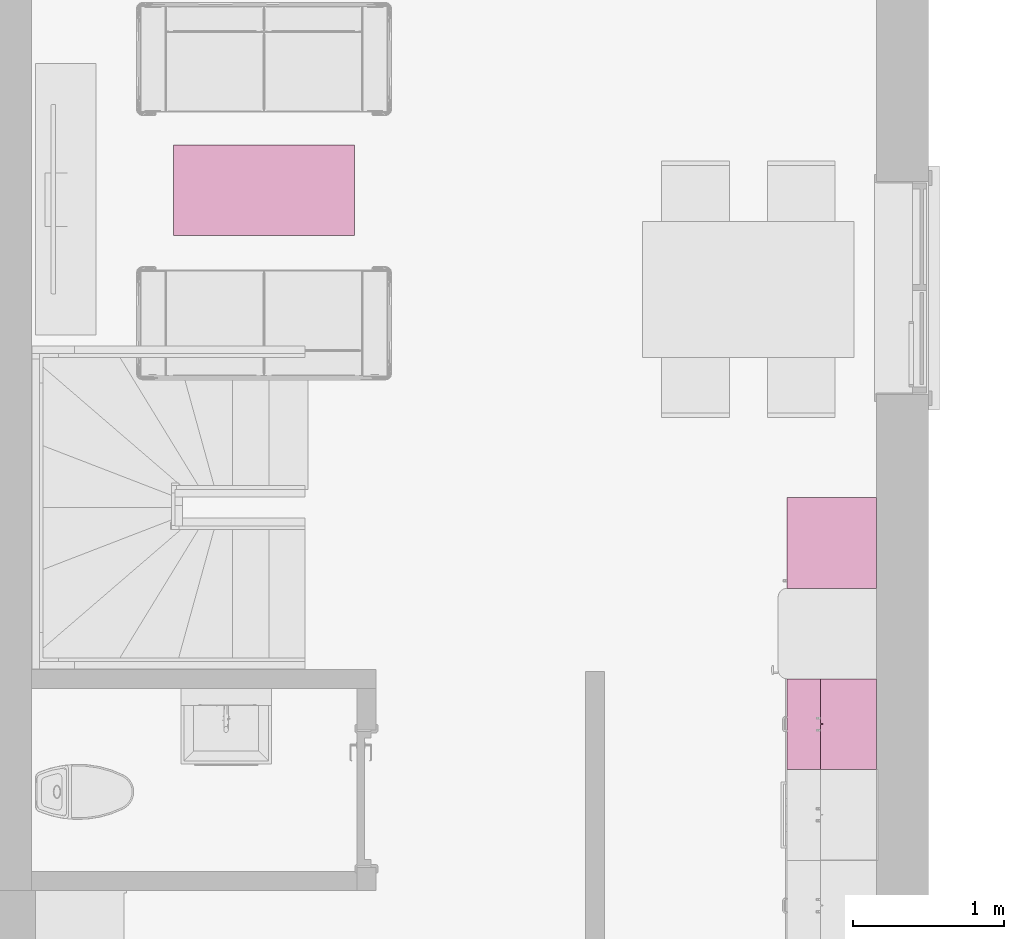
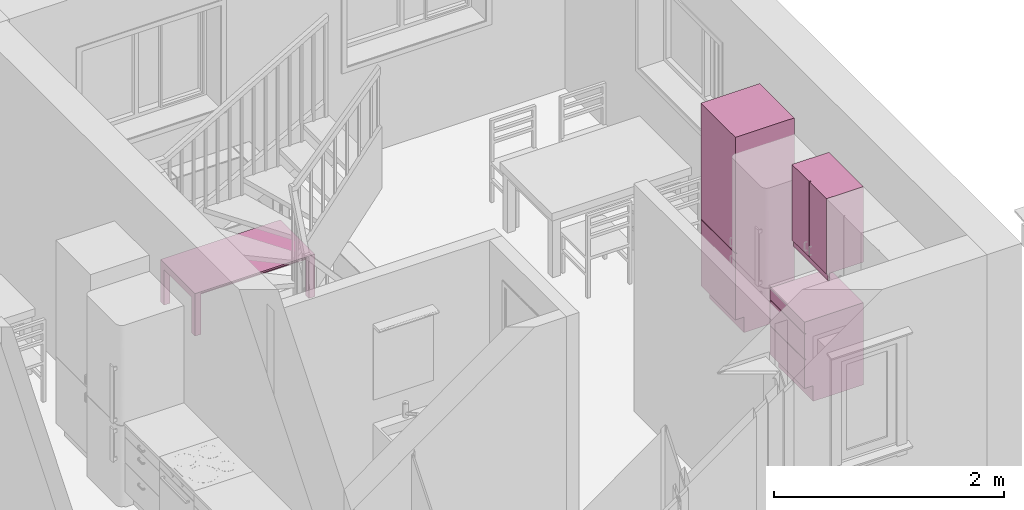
# One storey, part 44 of 65: 4 furnishings.
"""IFC2X3 building model written with IfcOpenShell, lengths in millimetres."""

from ifc_helpers import new_model, entity, si_unit, converted_unit, direction, frame, frame_2d, origin, origin_2d_with_axis, place, context, subcontext, project, spatial, polyline, rectangle, outline, extrude, faceted_brep, source, transform, mapped, material, material_list, type_object, type_shapes, element, save


model = new_model("IFC2X3")

# Units and contexts
model_context = context("Model", 3, precision=0.01, world=origin(), true_north=direction((0.0, 1.0)))
body_context = subcontext(model_context, "Body", "Model", "MODEL_VIEW")
ifc_project = project(units=[si_unit("LENGTHUNIT", "METRE", prefix="MILLI"), si_unit("AREAUNIT", "SQUARE_METRE"), si_unit("VOLUMEUNIT", "CUBIC_METRE"), converted_unit("PLANEANGLEUNIT", "DEGREE", entity("IfcPlaneAngleMeasure", 0.017453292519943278), si_unit("PLANEANGLEUNIT", "RADIAN"), dimensions=[0, 0, 0, 0, 0, 0, 0])], contexts=[model_context])

# Site, building, storey, space
site_placement = place(None, origin())
site = spatial("IfcSite", under=ifc_project, at=site_placement, Name="Default", CompositionType="ELEMENT")
building_placement = place(site_placement, origin())
building = spatial("IfcBuilding", under=site, at=building_placement, CompositionType="ELEMENT")
storey_placement = place(building_placement, origin())
storey = spatial("IfcBuildingStorey", under=building, at=storey_placement, Name="Et. 1", CompositionType="ELEMENT", Elevation=0.0)
space_placement = place(storey_placement, origin())
space = spatial("IfcSpace", under=storey, at=space_placement, Name="113", CompositionType="ELEMENT", InteriorOrExteriorSpace="INTERNAL")

# Furnishings
ifc_material_1 = material(Name="Focus - Møbler - Kaffebord - Ramme")
ifc_material_2 = material(Name="Focus - Møbler - Kaffebord - Glass")
ifc_material_list_1 = material_list([ifc_material_1, ifc_material_2])
furniture_type_1 = type_object("IfcFurnitureType", Name="Stuebord (1):1200x600x450", AssemblyPlace="NOTDEFINED", material=ifc_material_list_1)
shared_shape_1 = source(origin(), body_context, "Body", "SweptSolid", [
    extrude(outline(polyline([(-600.0, -300.0), (600.0, -300.0), (600.0, 300.0), (-600.0, 300.0), (-600.0, -300.0)]), holes=[polyline([(-540.0, -240.0), (-540.0, 240.0), (540.0, 240.0), (540.0, -240.0), (-540.0, -240.0)])]), frame((18.26576667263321, 95.21107780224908, 435.0), z_axis=(0.0, 0.0, 1.0), x_axis=(-1.0, 0.0, 0.0)), (0.0, 0.0, 1.0), 14.999999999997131),
    extrude(rectangle(XDim=1079.9999999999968, YDim=480.0000000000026, at=origin_2d_with_axis()), frame((18.26576667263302, 95.21107780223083, 435.0), z_axis=(0.0, 0.0, 1.0), x_axis=(-1.0, 0.0, 0.0)), (0.0, 0.0, 1.0), 14.999999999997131),
    extrude(outline(polyline([(-202.5000000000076, -300.0), (232.49999999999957, -300.0), (232.5000000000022, 300.0), (-202.49999999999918, 300.0), (-202.5000000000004, 240.0), (172.50000000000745, 240.0), (172.50000000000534, -240.0), (-202.5000000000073, -240.0), (-202.5000000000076, -300.0)])), frame((558.2657666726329, 95.21107780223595, 202.4999999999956), z_axis=(1.0, 0.0, 0.0), x_axis=(0.0, 0.0, 1.0)), (0.0, 0.0, 1.0), 59.999999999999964),
    extrude(outline(polyline([(-202.50000000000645, -300.0), (232.4999999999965, -300.0), (232.50000000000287, 300.0), (-202.49999999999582, 300.0), (-202.49999999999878, 240.0), (172.50000000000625, 240.0), (172.5000000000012, -240.0), (-202.5000000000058, -240.0), (-202.50000000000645, -300.0)])), frame((-581.7342333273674, 95.21107780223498, 202.49999999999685), z_axis=(1.0, 0.0, 0.0), x_axis=(0.0, 0.0, 1.0)), (0.0, 0.0, 1.0), 60.00000000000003),
    extrude(rectangle(XDim=1080.000000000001, YDim=480.00000000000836, at=frame_2d((5.684341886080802e-14, 0.0), x_axis=(1.0, 0.0))), frame((18.265766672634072, 95.21107780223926, 375.0), z_axis=(0.0, 0.0, 1.0), x_axis=(-1.0, 0.0, 0.0)), (0.0, 0.0, 1.0), 14.999999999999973),
])
type_shapes(furniture_type_1, [shared_shape_1])
furnishing_1_placement = place(space_placement, frame((29881.523660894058, 14488.115229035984, 0.0), z_axis=(0.0, 0.0, 1.0), x_axis=(-1.0, 0.0, 0.0)))
element("IfcFurnishingElement", 1, at=furnishing_1_placement, inside=space, type_object=furniture_type_1, material=ifc_material_list_1, Name="Stuebord (1):1200x600x450", context=body_context, shape_type="MappedRepresentation", body=[
    mapped(shared_shape_1, transform((0.0, 0.0, 0.0), scale=1.0)),
])
ifc_material_3 = material(Name="Focus - Kjøkken - Front")
ifc_material_4 = material(Name="Focus - Kjøkken - Skapstamme")
ifc_material_list_2 = material_list([ifc_material_3, ifc_material_4])
furniture_type_2 = type_object("IfcFurnitureType", Name="Focus - Kjøkken - Benkeskap 3 skuffer:600 mm", AssemblyPlace="NOTDEFINED", material=ifc_material_list_2)
shared_shape_2 = source(origin(), body_context, "Body", "SweptSolid", [
    extrude(rectangle(XDim=600.0, YDim=503.99999999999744, at=frame_2d((-2.842170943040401e-14, -2.842170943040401e-14), x_axis=(1.0, 0.0))), frame((-254.58506095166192, 499.8168112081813, 0.0), z_axis=(0.0, 0.0, 1.0), x_axis=(-1.0, 0.0, 0.0)), (0.0, 0.0, 1.0), 165.99999999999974),
    extrude(rectangle(XDim=16.000000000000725, YDim=600.0000000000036, at=frame_2d((0.0, 2.842170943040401e-14), x_axis=(1.0, 0.0))), frame((-254.58506095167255, 169.81681120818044, 747.0), z_axis=(0.0, 0.0, 1.0), x_axis=(0.0, -1.0, 0.0)), (0.0, 0.0, 1.0), 122.99999999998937),
    extrude(rectangle(XDim=16.000000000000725, YDim=600.0, at=frame_2d((0.0, 2.842170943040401e-14), x_axis=(1.0, 0.0))), frame((-254.58506095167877, 169.81681120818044, 166.0), z_axis=(0.0, 0.0, 1.0), x_axis=(0.0, -1.0, 0.0)), (0.0, 0.0, 1.0), 303.0000000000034),
    extrude(rectangle(XDim=16.000000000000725, YDim=599.9999999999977, at=frame_2d((0.0, 2.842170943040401e-14), x_axis=(1.0, 0.0))), frame((-254.58506095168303, 169.81681120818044, 475.0), z_axis=(0.0, 0.0, 1.0), x_axis=(0.0, -1.0, 0.0)), (0.0, 0.0, 1.0), 265.9999999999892),
    extrude(rectangle(XDim=573.9999999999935, YDim=599.9999999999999, at=frame_2d((-90.33333333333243, 2.842170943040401e-14), x_axis=(1.0, 0.0))), frame((-254.5850609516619, 555.1501445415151, 166.0), z_axis=(0.0, 0.0, 1.0), x_axis=(0.0, 1.0, 0.0)), (0.0, 0.0, 1.0), 704.0000000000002),
])
type_shapes(furniture_type_2, [shared_shape_2])
furnishing_2_placement = place(space_placement, frame((33167.192775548, 10601.473658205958, 0.0), z_axis=(0.0, 0.0, 1.0), x_axis=(0.0, -1.0, 0.0)))
element("IfcFurnishingElement", 2, at=furnishing_2_placement, inside=space, type_object=furniture_type_2, material=ifc_material_list_2, Name="Focus - Kjøkken - Benkeskap 3 skuffer:600 mm", context=body_context, shape_type="MappedRepresentation", body=[
    mapped(shared_shape_2, transform((0.0, 0.0, 0.0), scale=1.0)),
])
furniture_type_3 = type_object("IfcFurnitureType", Name="Focus - Kjøkken - Høyskap 2 dører:600 mm", AssemblyPlace="NOTDEFINED", material=ifc_material_list_2)
shared_shape_3 = source(origin(), body_context, "Body", "SweptSolid", [
    extrude(rectangle(XDim=599.9999999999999, YDim=503.9999999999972, at=origin_2d_with_axis()), frame((-254.58506095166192, 499.81681120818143, 0.0), z_axis=(0.0, 0.0, 1.0), x_axis=(-1.0, 0.0, 0.0)), (0.0, 0.0, 1.0), 165.99999999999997),
    extrude(rectangle(XDim=16.000000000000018, YDim=600.0000000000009, at=frame_2d((-1.687538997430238e-14, 0.0), x_axis=(1.0, 0.0))), frame((-254.58506095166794, 169.81681120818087, 873.0), z_axis=(0.0, 0.0, 1.0), x_axis=(0.0, -1.0, 0.0)), (0.0, 0.0, 1.0), 1226.9999999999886),
    extrude(rectangle(XDim=16.000000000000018, YDim=600.0000000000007, at=frame_2d((-1.687538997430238e-14, -2.842170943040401e-14), x_axis=(1.0, 0.0))), frame((-254.585060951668, 169.81681120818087, 166.0), z_axis=(0.0, 0.0, 1.0), x_axis=(0.0, -1.0, 0.0)), (0.0, 0.0, 1.0), 701.0000000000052),
    extrude(rectangle(XDim=573.9999999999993, YDim=599.9999999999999, at=frame_2d((-2.842170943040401e-14, 0.0), x_axis=(1.0, 0.0))), frame((-254.5850609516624, 464.81681120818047, 166.0), z_axis=(0.0, 0.0, 1.0), x_axis=(0.0, 1.0, 0.0)), (0.0, 0.0, 1.0), 1934.0000000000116),
])
type_shapes(furniture_type_3, [shared_shape_3])
furnishing_3_placement = place(space_placement, frame((33167.19277554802, 11801.473658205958, 0.0), z_axis=(0.0, 0.0, 1.0), x_axis=(0.0, -1.0, 0.0)))
element("IfcFurnishingElement", 3, at=furnishing_3_placement, inside=space, type_object=furniture_type_3, material=ifc_material_list_2, Name="Focus - Kjøkken - Høyskap 2 dører:600 mm", context=body_context, shape_type="MappedRepresentation", body=[
    mapped(shared_shape_3, transform((0.0, 0.0, 0.0), scale=1.0)),
])
furniture_type_4 = type_object("IfcFurnitureType", Name="Focus - Kjøkken - Veggskap 2 dør:600x370x400", AssemblyPlace="NOTDEFINED", material=ifc_material_list_2)
shared_shape_4 = source(origin(), body_context, "Body", "Brep", [
    faceted_brep([(-257.58506095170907, 397.8168112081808, 2100.0), (-257.58506095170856, 397.8168112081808, 1300.0), (-554.5850609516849, 397.8168112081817, 1300.0), (-554.5850609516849, 397.8168112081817, 2100.0), (-257.5850609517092, 381.81681120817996, 2100.0), (-257.5850609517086, 381.81681120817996, 1300.0), (-554.585060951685, 381.8168112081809, 1300.0), (-554.585060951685, 381.8168112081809, 2100.0)], [[[0, 1, 2, 3]], [[1, 0, 4, 5]], [[2, 1, 5, 6]], [[3, 2, 6, 7]], [[0, 3, 7, 4]], [[4, 7, 6, 5]]]),
    faceted_brep([(-251.58506095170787, 381.81681120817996, 1300.0), (45.414939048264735, 381.81681120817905, 1300.0), (45.414939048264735, 381.81681120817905, 2100.0), (-251.58506095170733, 381.81681120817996, 2100.0), (-251.58506095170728, 397.8168112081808, 2100.0), (-251.58506095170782, 397.8168112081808, 1300.0), (45.4149390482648, 397.81681120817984, 2100.0), (45.4149390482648, 397.81681120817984, 1300.0)], [[[0, 1, 2, 3]], [[4, 5, 0, 3]], [[6, 4, 3, 2]], [[7, 6, 2, 1]], [[5, 7, 1, 0]], [[5, 4, 6, 7]]]),
    faceted_brep([(45.414939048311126, 413.8168112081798, 1300.0), (45.414939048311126, 413.8168112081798, 1225.0), (-554.5850609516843, 413.8168112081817, 1225.0), (-554.5850609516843, 413.8168112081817, 1300.0), (45.4149390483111, 397.8168112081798, 1300.0), (-554.5850609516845, 397.81681120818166, 1300.0), (-554.5850609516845, 397.81681120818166, 1225.0), (45.414939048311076, 397.8168112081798, 1225.0)], [[[0, 1, 2, 3]], [[4, 5, 6, 7]], [[1, 0, 4, 7]], [[2, 1, 7, 6]], [[3, 2, 6, 5]], [[0, 3, 5, 4]]]),
    faceted_brep([(45.41493904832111, 751.8168112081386, 2100.0), (-554.5850609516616, 751.8168112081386, 2100.0), (-554.5850609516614, 397.8168112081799, 2100.0), (45.41493904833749, 397.8168112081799, 2100.0), (45.41493904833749, 397.8168112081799, 1300.0), (-554.5850609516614, 397.8168112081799, 1300.0), (-554.5850609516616, 751.8168112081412, 1300.0), (45.41493904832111, 751.8168112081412, 1300.0), (-538.5850609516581, 735.8168112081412, 1316.0), (29.414939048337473, 735.8168112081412, 1316.0), (29.414939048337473, 735.8168112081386, 2084.0), (-538.5850609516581, 735.8168112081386, 2084.0), (29.414939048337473, 397.8168112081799, 2084.0), (29.414939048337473, 397.8168112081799, 1316.0), (-538.5850609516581, 397.8168112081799, 1316.0), (-538.5850609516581, 397.8168112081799, 2084.0)], [[[0, 1, 2, 3]], [[4, 5, 6, 7]], [[1, 0, 7, 6]], [[2, 1, 6, 5]], [[8, 9, 10, 11]], [[0, 3, 4, 7]], [[3, 2, 5, 4], [12, 13, 14, 15]], [[14, 13, 9, 8]], [[15, 14, 8, 11]], [[12, 15, 11, 10]], [[13, 12, 10, 9]]]),
])
type_shapes(furniture_type_4, [shared_shape_4])
furnishing_4_placement = place(space_placement, frame((33167.19277554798, 10601.473658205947, 0.0), z_axis=(0.0, 0.0, 1.0), x_axis=(0.0, -1.0, 0.0)))
element("IfcFurnishingElement", 4, at=furnishing_4_placement, inside=space, type_object=furniture_type_4, material=ifc_material_list_2, Name="Focus - Kjøkken - Veggskap 2 dør:600x370x400", context=body_context, shape_type="MappedRepresentation", body=[
    mapped(shared_shape_4, transform((0.0, 0.0, 0.0), scale=1.0)),
])

save(model, "model.ifc")
